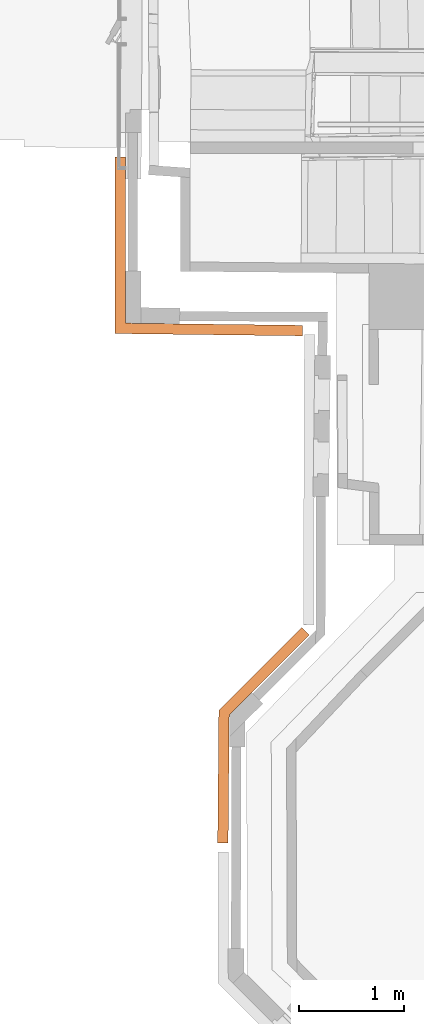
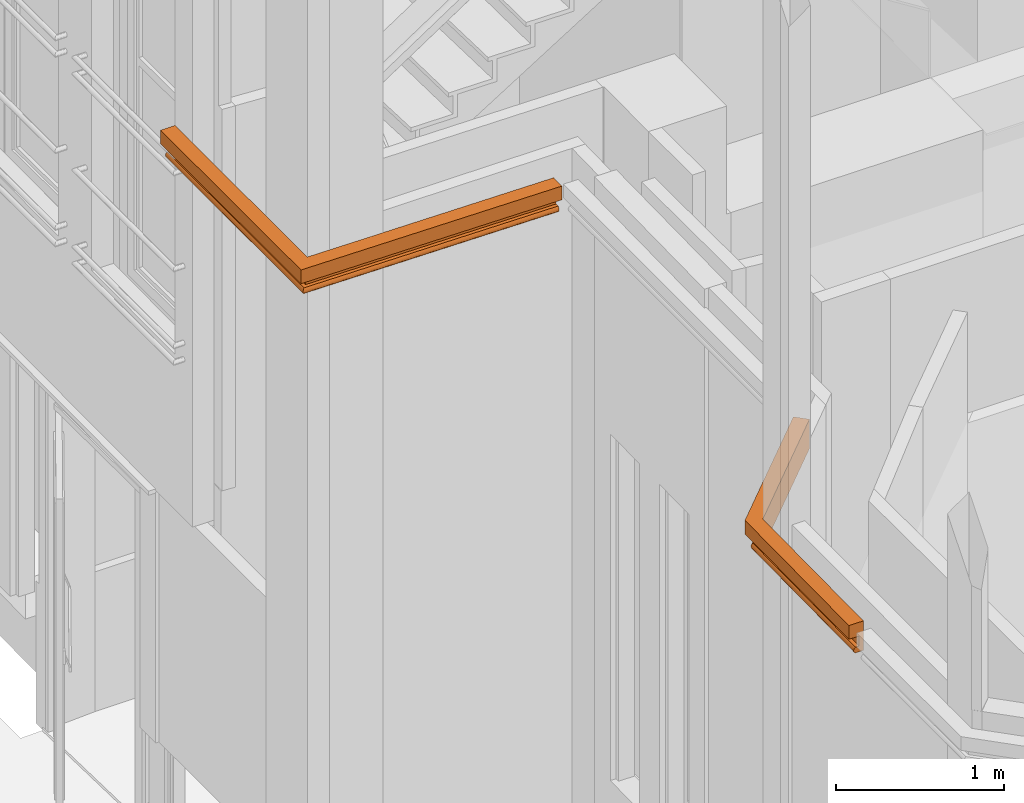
# One storey, part 84 of 97: 2 proxies.
"""IFC2X3 building model written with IfcOpenShell, lengths in centimetres."""

from ifc_helpers import new_model, entity, si_unit, converted_unit, direction, origin, origin_with_axes, place, context, subcontext, project, spatial, faceted_brep, material, type_object, element, save


model = new_model("IFC2X3")

# Units and contexts
model_context = context("Model", 3, precision=0.0001, world=origin(), true_north=direction((0.225632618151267, 0.974212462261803, 0.0)))
body_context = subcontext(model_context, "Body", "Model", "MODEL_VIEW")
ifc_project = project(units=[si_unit("LENGTHUNIT", "METRE", prefix="CENTI"), si_unit("AREAUNIT", "SQUARE_METRE", prefix="CENTI"), si_unit("VOLUMEUNIT", "CUBIC_METRE", prefix="CENTI"), converted_unit("PLANEANGLEUNIT", "DEGREE", entity("IfcRatioMeasure", 0.0174532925), si_unit("PLANEANGLEUNIT", "RADIAN"), dimensions=[0, 0, 0, 0, 0, 0, 0])], contexts=[model_context])

# Site, building, storey
site_placement = place(None, origin_with_axes())
site = spatial("IfcSite", under=ifc_project, at=site_placement, Name="Default Site", CompositionType="ELEMENT")
building_placement = place(site_placement, origin_with_axes())
building = spatial("IfcBuilding", under=site, at=building_placement, Name="Default Building", CompositionType="ELEMENT")
storey_placement = place(building_placement, origin_with_axes())
storey = spatial("IfcBuildingStorey", under=building, at=storey_placement, Name="Rez-de-chaussée", CompositionType="ELEMENT", Elevation=0.0)

# Proxies
ifc_material = material(Name="Aluminium mat")
building_element_proxy_type = type_object("IfcBuildingElementProxyType", Name="Corniche niv1", PredefinedType="NOTDEFINED", material=ifc_material)
proxy_1_placement = place(storey_placement, origin_with_axes())
element("IfcBuildingElementProxy", 1, at=proxy_1_placement, inside=storey, type_object=building_element_proxy_type, material=ifc_material, Name="Extrusion (solide) 954637", context=body_context, shape_type="Brep", body=[
    faceted_brep([(-1263.09995651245, -715.360021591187, 464.400005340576), (-1273.04992675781, -711.187314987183, 464.400005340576), (-1274.15580749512, -837.062740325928, 464.400005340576), (-1264.16997909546, -837.150478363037, 464.400005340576), (-1273.04992675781, -711.187314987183, 454.400014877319), (-1274.15581527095, -837.062740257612, 454.400014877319), (-1274.15581527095, -837.062740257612, 464.400005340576), (-1266.08905792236, -714.106464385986, 454.400014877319), (-1267.16985702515, -837.124156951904, 454.400014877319), (-1274.15580749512, -837.062740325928, 454.400014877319), (-1266.08905792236, -714.106464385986, 447.100019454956), (-1267.16983959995, -837.124157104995, 447.100019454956), (-1267.16983959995, -837.124157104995, 454.400014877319), (-1268.54858398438, -713.075017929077, 447.100019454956), (-1269.6382522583, -837.10241317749, 447.100019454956), (-1267.16985702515, -837.124156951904, 447.100019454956), (-1268.90382078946, -712.92605406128, 446.875561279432), (-1269.99473612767, -837.099266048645, 446.875572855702), (-1269.63824782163, -837.102413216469, 447.100012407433), (-1268.90382766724, -712.926054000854, 446.87557220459), (-1269.21224738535, -712.796735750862, 446.589900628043), (-1270.30429703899, -837.096595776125, 446.589897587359), (-1269.99474750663, -837.099265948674, 446.875584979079), (-1269.21224594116, -712.79673576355, 446.58989906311), (-1269.46356746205, -712.691306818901, 446.25255796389), (-1270.55653970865, -837.094402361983, 446.252532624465), (-1270.3042944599, -837.096595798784, 446.589896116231), (-1269.46353912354, -712.691307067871, 446.252536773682), (-1269.64933264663, -712.613391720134, 445.874842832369), (-1270.74296605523, -837.092781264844, 445.874822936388), (-1270.55650277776, -837.094402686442, 446.252515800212), (-1269.64931488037, -712.613391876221, 445.874834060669), (-1269.76334367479, -712.565565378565, 445.469466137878), (-1270.85737972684, -837.091732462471, 445.469460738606), (-1270.74294214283, -837.092781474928, 445.874820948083), (-1269.76337432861, -712.565565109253, 445.46947479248), (-1269.80181669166, -712.549447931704, 445.050001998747), (-1270.89598938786, -837.091350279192, 445.050004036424), (-1270.85740914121, -837.091732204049, 445.469472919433), (-1269.80180740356, -712.549448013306, 445.050001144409), (-1269.76336504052, -712.565565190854, 444.630528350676), (-1270.85739985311, -837.09173228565, 444.630530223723), (-1270.89598009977, -837.091350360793, 445.049999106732), (-1269.76337432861, -712.565565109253, 444.630527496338), (-1269.64934553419, -712.613391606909, 444.225159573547), (-1270.74297279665, -837.092781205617, 444.225172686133), (-1270.85741038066, -837.09173219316, 444.63053289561), (-1269.64931488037, -712.613391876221, 444.225168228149), (-1269.46352135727, -712.691307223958, 443.847474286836), (-1270.5564850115, -837.094402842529, 443.847495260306), (-1270.74294828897, -837.092781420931, 444.22518812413), (-1269.46353912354, -712.691307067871, 443.847465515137), (-1269.21221760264, -712.79673601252, 443.510124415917), (-1270.30426612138, -837.096596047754, 443.510127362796), (-1270.55651137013, -837.094402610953, 443.847490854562), (-1269.21224594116, -712.79673576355, 443.510103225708), (-1268.90382622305, -712.926054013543, 443.224431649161), (-1269.99474606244, -837.099265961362, 443.224418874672), (-1270.3042955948, -837.096595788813, 443.510106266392), (-1268.90382766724, -712.926054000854, 443.224430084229), (-1268.54859086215, -713.075017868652, 442.999971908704), (-1269.63825469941, -837.102413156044, 442.999978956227), (-1269.99474300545, -837.09926598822, 443.224418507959), (-1268.54858398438, -713.075017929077, 442.999982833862), (-1263.09995651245, -715.360021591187, 442.999982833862), (-1264.16997909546, -837.150478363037, 442.999982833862), (-1269.6382522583, -837.10241317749, 442.999982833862), (-1264.16995621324, -837.150478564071, 464.400005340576), (-1264.16995621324, -837.150478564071, 442.999982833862), (-1187.16135025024, -639.421367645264, 464.400005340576), (-1194.22273635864, -632.360076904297, 464.400005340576), (-1194.22273635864, -632.360076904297, 454.400014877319), (-1273.04995059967, -711.187291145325, 454.400014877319), (-1273.04995059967, -711.187291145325, 464.400005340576), (-1189.28270339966, -637.300062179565, 454.400014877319), (-1189.28270339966, -637.300062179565, 447.100019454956), (-1266.08908176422, -714.106440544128, 447.100019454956), (-1266.08908176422, -714.106440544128, 454.400014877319), (-1191.02821350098, -635.554599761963, 447.100019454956), (-1191.28027354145, -635.302492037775, 446.875581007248), (-1268.90383158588, -712.926050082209, 446.875581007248), (-1268.54859075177, -713.075011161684, 447.100034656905), (-1191.2802696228, -635.302495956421, 446.87557220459), (-1191.49914410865, -635.08362147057, 446.589908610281), (-1269.2122521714, -712.796729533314, 446.589908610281), (-1191.49913787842, -635.083627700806, 446.58989906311), (-1191.67749635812, -634.905269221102, 446.252559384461), (-1269.46354521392, -712.691300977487, 446.252543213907), (-1191.67747497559, -634.905290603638, 446.252536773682), (-1191.80933975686, -634.773425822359, 445.874814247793), (-1269.64930567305, -712.613401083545, 445.874827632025), (-1269.46351995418, -712.691326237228, 446.252523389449), (-1191.80936813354, -634.773397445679, 445.874834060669), (-1191.8902650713, -634.692452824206, 445.469484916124), (-1269.76337760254, -712.565561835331, 445.469476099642), (-1269.64933696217, -712.613369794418, 445.874842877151), (-1191.89023971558, -634.692478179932, 445.46947479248), (-1191.91756972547, -634.665243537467, 445.049995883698), (-1269.80179060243, -712.549464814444, 445.049998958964), (-1269.76335068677, -712.5655887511, 445.469471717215), (-1191.91761016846, -634.665203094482, 445.050001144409), (-1191.89028015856, -634.692437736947, 444.630522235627), (-1269.76339112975, -712.565548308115, 444.630525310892), (-1269.80183104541, -712.549424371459, 445.049998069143), (-1191.89023971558, -634.692478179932, 444.630527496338), (-1191.80934277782, -634.773422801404, 444.225178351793), (-1269.64931160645, -712.613395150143, 444.225169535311), (-1269.76335224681, -712.565587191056, 444.63053631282), (-1191.80936813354, -634.773397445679, 444.225168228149), (-1191.67750335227, -634.905262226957, 443.847445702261), (-1269.46354833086, -712.691297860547, 443.847459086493), (-1269.64933404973, -712.613372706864, 444.225154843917), (-1191.67747497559, -634.905290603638, 443.847465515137), (-1191.49911649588, -635.083649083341, 443.510125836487), (-1269.21222455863, -712.796757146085, 443.510125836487), (-1269.46352383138, -712.691322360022, 443.847481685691), (-1191.49913787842, -635.083627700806, 443.510103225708), (-1191.28026339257, -635.302502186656, 443.224439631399), (-1268.903821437, -712.92606023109, 443.224439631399), (-1191.2802696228, -635.302495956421, 443.224430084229), (-1191.02820958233, -635.554603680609, 442.999991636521), (-1268.54858683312, -713.075015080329, 442.999976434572), (-1191.02821350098, -635.554599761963, 442.999982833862), (-1187.16135025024, -639.421367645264, 442.999982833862), (-1263.09998035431, -715.359997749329, 464.400005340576), (-1263.09998035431, -715.359997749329, 442.999982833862), (-1274.15580755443, -837.062747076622, 464.400005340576), (-1274.15580755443, -837.062747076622, 454.400014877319), (-1267.16985672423, -837.124122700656, 454.400014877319), (-1267.16985672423, -837.124122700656, 447.100019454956), (-1269.63825246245, -837.102436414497, 447.100019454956), (-1269.99473605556, -837.09930449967, 446.87557220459), (-1270.30429830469, -837.096584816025, 446.58989906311), (-1270.55654496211, -837.094368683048, 446.252536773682), (-1270.74298814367, -837.092730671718, 445.874834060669), (-1270.85742944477, -837.091725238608, 445.46947479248), (-1270.89595826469, -837.09138674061, 445.050001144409), (-1270.85742944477, -837.091725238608, 444.630527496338), (-1270.74298814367, -837.092730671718, 444.225168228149), (-1270.55654496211, -837.094368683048, 443.847465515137), (-1270.30429830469, -837.096584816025, 443.510103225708), (-1269.99473605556, -837.09930449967, 443.224430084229), (-1269.63825246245, -837.102436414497, 442.999982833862), (-1191.02816581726, -635.554552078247, 442.999982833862), (-1191.28024578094, -635.302472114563, 443.224430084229), (-1191.49911403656, -635.083603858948, 443.510103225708), (-1191.67745113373, -634.90526676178, 443.847465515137), (-1191.80934429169, -634.773373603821, 444.225168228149), (-1191.91756248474, -634.665155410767, 445.050001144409), (-1191.80934429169, -634.773373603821, 445.874834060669), (-1191.67745113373, -634.90526676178, 446.252536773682), (-1191.49911403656, -635.083603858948, 446.58989906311), (-1191.28024578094, -635.302472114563, 446.87557220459), (-1191.02816581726, -635.554552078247, 447.100019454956), (-1189.2826795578, -637.300038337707, 447.100019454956), (-1189.2826795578, -637.300038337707, 454.400014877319), (-1194.22268867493, -632.360029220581, 454.400014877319), (-1194.22268867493, -632.360029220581, 464.400005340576)], [[[0, 1, 2, 3]], [[1, 4, 5, 6]], [[4, 7, 8, 9]], [[7, 10, 11, 12]], [[10, 13, 14, 15]], [[13, 16, 17, 18]], [[19, 20, 21, 22]], [[23, 24, 25, 26]], [[27, 28, 29, 30]], [[31, 32, 33, 34]], [[35, 36, 37, 38]], [[39, 40, 41, 42]], [[43, 44, 45, 46]], [[47, 48, 49, 50]], [[51, 52, 53, 54]], [[55, 56, 57, 58]], [[59, 60, 61, 62]], [[63, 64, 65, 66]], [[64, 0, 67, 68]], [[69, 70, 1, 0]], [[70, 71, 72, 73]], [[71, 74, 7, 4]], [[74, 75, 76, 77]], [[75, 78, 13, 10]], [[78, 79, 80, 81]], [[82, 83, 84, 19]], [[85, 86, 87, 23]], [[88, 89, 90, 91]], [[92, 93, 94, 95]], [[96, 97, 98, 99]], [[100, 101, 102, 103]], [[104, 105, 106, 107]], [[108, 109, 110, 111]], [[112, 113, 114, 115]], [[116, 117, 118, 55]], [[119, 120, 121, 59]], [[122, 123, 64, 63]], [[123, 69, 124, 125]], [[3, 126, 127, 128, 129, 130, 131, 132, 133, 134, 135, 136, 137, 138, 139, 140, 141, 142, 65]], [[123, 143, 144, 145, 146, 147, 104, 148, 96, 149, 150, 151, 152, 153, 154, 155, 156, 157, 69]]]),
])
proxy_2_placement = place(storey_placement, origin_with_axes())
element("IfcBuildingElementProxy", 2, at=proxy_2_placement, inside=storey, type_object=building_element_proxy_type, material=ifc_material, Name="Extrusion (solide) 954639", context=body_context, shape_type="Brep", body=[
    faceted_brep([(-1361.89584732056, -342.840051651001, 463.899993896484), (-1371.88682556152, -352.704524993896, 463.899993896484), (-1193.47152709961, -354.892182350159, 463.899993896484), (-1193.34907531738, -344.906711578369, 463.899993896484), (-1371.88682556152, -352.704524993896, 453.900003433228), (-1193.47152708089, -354.892180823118, 453.900003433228), (-1193.47152708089, -354.892180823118, 463.899993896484), (-1364.89734649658, -345.803475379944, 453.900003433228), (-1193.38579177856, -347.906494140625, 453.900003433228), (-1193.47152709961, -354.892182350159, 453.900003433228), (-1364.89734649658, -345.803475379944, 446.600008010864), (-1193.38579160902, -347.906480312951, 446.600008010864), (-1193.38579160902, -347.906480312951, 453.900003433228), (-1367.36698150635, -348.241877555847, 446.600008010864), (-1193.41611862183, -350.374794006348, 446.600008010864), (-1193.38579177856, -347.906494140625, 446.600008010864), (-1367.72356050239, -348.59401174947, 446.375582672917), (-1193.42050569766, -350.731243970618, 446.37558329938), (-1193.41611861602, -350.374793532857, 446.60000725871), (-1367.72356033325, -348.593997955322, 446.375560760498), (-1368.03331374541, -348.899769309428, 446.089887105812), (-1193.42422477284, -351.04076204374, 446.089880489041), (-1193.42050553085, -350.731230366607, 446.375561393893), (-1368.03331375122, -348.89976978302, 446.089887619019), (-1368.2856557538, -349.148922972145, 445.752559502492), (-1193.42737168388, -351.29296758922, 445.752555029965), (-1193.42422475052, -351.040760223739, 446.089881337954), (-1368.28565597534, -349.148941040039, 445.752573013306), (-1368.47219490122, -349.333161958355, 445.374831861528), (-1193.42966087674, -351.479465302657, 445.374825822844), (-1193.42737188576, -351.292984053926, 445.752569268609), (-1368.47219467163, -349.333143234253, 445.374822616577), (-1368.58673082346, -349.446190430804, 444.96946027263), (-1193.43099569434, -351.593879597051, 444.969457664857), (-1193.42966062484, -351.479444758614, 445.374818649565), (-1368.58673095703, -349.446201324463, 444.969463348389), (-1368.6253549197, -349.484313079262, 444.549990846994), (-1193.43147269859, -351.632469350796, 444.549989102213), (-1193.43099581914, -351.593889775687, 444.969462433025), (-1368.62535476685, -349.484300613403, 444.549989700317), (-1368.5867308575, -349.44619320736, 444.130564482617), (-1193.43099571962, -351.593881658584, 444.13056539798), (-1193.43147254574, -351.632456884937, 444.549991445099), (-1368.58673095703, -349.446201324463, 444.130563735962), (-1368.47219465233, -349.333141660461, 443.725157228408), (-1193.42966060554, -351.479443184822, 443.725161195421), (-1193.43099582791, -351.59389049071, 444.130566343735), (-1368.47219467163, -349.333143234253, 443.725156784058), (-1368.28565597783, -349.148941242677, 443.347453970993), (-1193.42737188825, -351.292984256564, 443.34745771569), (-1193.42966064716, -351.479446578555, 443.725162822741), (-1368.28565597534, -349.148941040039, 443.347454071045), (-1368.03331369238, -348.899764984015, 443.010095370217), (-1193.42422469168, -351.040755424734, 443.010101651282), (-1193.42737190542, -351.292985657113, 443.347458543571), (-1368.03331375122, -348.89976978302, 443.010091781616), (-1367.72356033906, -348.593998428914, 442.72441812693), (-1193.42050553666, -350.731230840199, 442.724417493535), (-1193.42422477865, -351.040762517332, 443.010098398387), (-1367.72356033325, -348.593997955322, 442.724418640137), (-1367.3669816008, -348.241885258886, 442.500006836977), (-1193.41611871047, -350.374801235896, 442.500007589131), (-1193.42050552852, -350.731230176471, 442.724418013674), (-1367.36698150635, -348.241877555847, 442.500019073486), (-1361.89584732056, -342.840051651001, 442.500019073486), (-1193.34907531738, -344.906711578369, 442.500019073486), (-1193.41611862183, -350.374794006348, 442.500019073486), (-1193.34907521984, -344.90670362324, 463.899993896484), (-1193.34907521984, -344.90670362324, 442.500019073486), (-1361.8200302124, -184.926748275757, 463.899993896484), (-1371.80624008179, -184.921956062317, 463.899993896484), (-1371.80624008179, -184.921956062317, 453.900003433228), (-1371.88688248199, -352.704524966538, 453.900003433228), (-1371.88688248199, -352.704524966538, 463.899993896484), (-1364.82000350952, -184.925305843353, 453.900003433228), (-1364.82000350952, -184.925305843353, 446.600008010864), (-1364.89732740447, -345.80347538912, 446.600008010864), (-1364.89732740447, -345.80347538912, 453.900003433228), (-1367.28849411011, -184.924125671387, 446.600008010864), (-1367.64498634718, -184.923958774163, 446.375574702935), (-1367.72359267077, -348.59399793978, 446.375612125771), (-1367.36698407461, -348.241877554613, 446.600012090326), (-1367.64497756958, -184.923958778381, 446.375560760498), (-1367.95448087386, -184.923803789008, 446.089926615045), (-1368.03332395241, -348.899769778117, 446.089898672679), (-1367.72359850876, -348.593997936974, 446.375602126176), (-1367.95444488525, -184.923803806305, 446.089887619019), (-1368.20667336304, -184.923684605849, 445.752559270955), (-1368.28561732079, -349.148941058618, 445.752544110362), (-1368.03327779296, -348.899769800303, 446.089860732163), (-1368.20669174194, -184.923684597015, 445.752573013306), (-1368.3931982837, -184.923589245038, 445.374806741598), (-1368.47220832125, -349.333143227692, 445.374829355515), (-1368.28563055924, -349.148941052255, 445.752560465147), (-1368.39323043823, -184.923589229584, 445.374822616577), (-1368.50767246, -184.923541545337, 444.969463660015), (-1368.5867468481, -349.446201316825, 444.969467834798), (-1368.47224743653, -349.333143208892, 445.374837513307), (-1368.5076713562, -184.923541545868, 444.969463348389), (-1368.54625344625, -184.923517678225, 444.549994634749), (-1368.62534785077, -349.484300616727, 444.549989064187), (-1368.58674679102, -349.446201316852, 444.969464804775), (-1368.54619979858, -184.92351770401, 444.549989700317), (-1368.50762205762, -184.923541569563, 444.130568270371), (-1368.58669749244, -349.446201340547, 444.130566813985), (-1368.62529420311, -349.484300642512, 444.549995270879), (-1368.5076713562, -184.923541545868, 444.130563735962), (-1368.39321686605, -184.923589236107, 443.725160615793), (-1368.47223386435, -349.333143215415, 443.725145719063), (-1368.5867457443, -349.446201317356, 444.13055956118), (-1368.39323043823, -184.923589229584, 443.725156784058), (-1368.20674282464, -184.923684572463, 443.347428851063), (-1368.28568164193, -349.148941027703, 443.347441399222), (-1368.47224047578, -349.333143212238, 443.72513417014), (-1368.20669174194, -184.923684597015, 443.347454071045), (-1367.95444039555, -184.923803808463, 443.010095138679), (-1368.03327330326, -348.899769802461, 443.010122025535), (-1368.28563569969, -349.148941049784, 443.347469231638), (-1367.95444488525, -184.923803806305, 443.010091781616), (-1367.64494158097, -184.923958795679, 442.724457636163), (-1367.72356252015, -348.593997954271, 442.724416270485), (-1368.0332879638, -348.899769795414, 443.010119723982), (-1367.64497756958, -184.923958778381, 442.724418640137), (-1367.28850683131, -184.924125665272, 442.499998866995), (-1367.36699679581, -348.241877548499, 442.499994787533), (-1367.72358389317, -348.593997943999, 442.724381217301), (-1367.28849411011, -184.924125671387, 442.500019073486), (-1361.8200302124, -184.926748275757, 442.500019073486), (-1361.89592908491, -342.840051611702, 463.899993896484), (-1361.89592908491, -342.840051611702, 442.500019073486), (-1193.47151310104, -354.892182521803, 463.899993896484), (-1193.47151310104, -354.892182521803, 453.900003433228), (-1193.38585742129, -347.906493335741, 453.900003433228), (-1193.38585742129, -347.906493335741, 446.600008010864), (-1193.41612271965, -350.374793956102, 446.600008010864), (-1193.42049319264, -350.731229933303, 446.375560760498), (-1193.42428862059, -351.040767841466, 446.089887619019), (-1193.4273812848, -351.292991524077, 445.752573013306), (-1193.42966766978, -351.479458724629, 445.374822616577), (-1193.43107088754, -351.593898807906, 444.969463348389), (-1193.43154389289, -351.632474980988, 444.549989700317), (-1193.43107088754, -351.593898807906, 444.130563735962), (-1193.42966766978, -351.479458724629, 443.725156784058), (-1193.4273812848, -351.292991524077, 443.347454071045), (-1193.42428862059, -351.040767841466, 443.010091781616), (-1193.42049319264, -350.731229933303, 442.724418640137), (-1193.41612271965, -350.374793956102, 442.500019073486), (-1367.28849410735, -184.924119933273, 442.500019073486), (-1367.64497756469, -184.923948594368, 442.724418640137), (-1367.95444488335, -184.923799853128, 443.010091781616), (-1368.20669173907, -184.923678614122, 443.347454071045), (-1368.3932304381, -184.923588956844, 443.725156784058), (-1368.50767135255, -184.923533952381, 444.130563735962), (-1368.54619979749, -184.92351543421, 444.549989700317), (-1368.50767135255, -184.923533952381, 444.969463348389), (-1368.3932304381, -184.923588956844, 445.374822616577), (-1368.20669173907, -184.923678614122, 445.752573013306), (-1367.95444488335, -184.923799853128, 446.089887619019), (-1367.64497756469, -184.923948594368, 446.375560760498), (-1367.28849410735, -184.924119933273, 446.600008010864), (-1364.82000350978, -184.925306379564, 446.600008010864), (-1364.82000350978, -184.925306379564, 453.900003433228), (-1371.80624007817, -184.921948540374, 453.900003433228), (-1371.80624007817, -184.921948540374, 463.899993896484)], [[[0, 1, 2, 3]], [[1, 4, 5, 6]], [[4, 7, 8, 9]], [[7, 10, 11, 12]], [[10, 13, 14, 15]], [[13, 16, 17, 18]], [[19, 20, 21, 22]], [[23, 24, 25, 26]], [[27, 28, 29, 30]], [[31, 32, 33, 34]], [[35, 36, 37, 38]], [[39, 40, 41, 42]], [[43, 44, 45, 46]], [[47, 48, 49, 50]], [[51, 52, 53, 54]], [[55, 56, 57, 58]], [[59, 60, 61, 62]], [[63, 64, 65, 66]], [[64, 0, 67, 68]], [[69, 70, 1, 0]], [[70, 71, 72, 73]], [[71, 74, 7, 4]], [[74, 75, 76, 77]], [[75, 78, 13, 10]], [[78, 79, 80, 81]], [[82, 83, 84, 85]], [[86, 87, 88, 89]], [[90, 91, 92, 93]], [[94, 95, 96, 97]], [[98, 99, 100, 101]], [[102, 103, 104, 105]], [[106, 107, 108, 109]], [[110, 111, 112, 113]], [[114, 115, 116, 117]], [[118, 119, 120, 121]], [[122, 123, 124, 125]], [[126, 127, 64, 63]], [[127, 69, 128, 129]], [[3, 130, 131, 132, 133, 134, 135, 136, 137, 138, 139, 140, 141, 142, 143, 144, 145, 146, 65]], [[127, 147, 148, 149, 150, 151, 152, 153, 154, 155, 156, 157, 158, 159, 160, 161, 162, 163, 69]]]),
])

save(model, "model.ifc")
